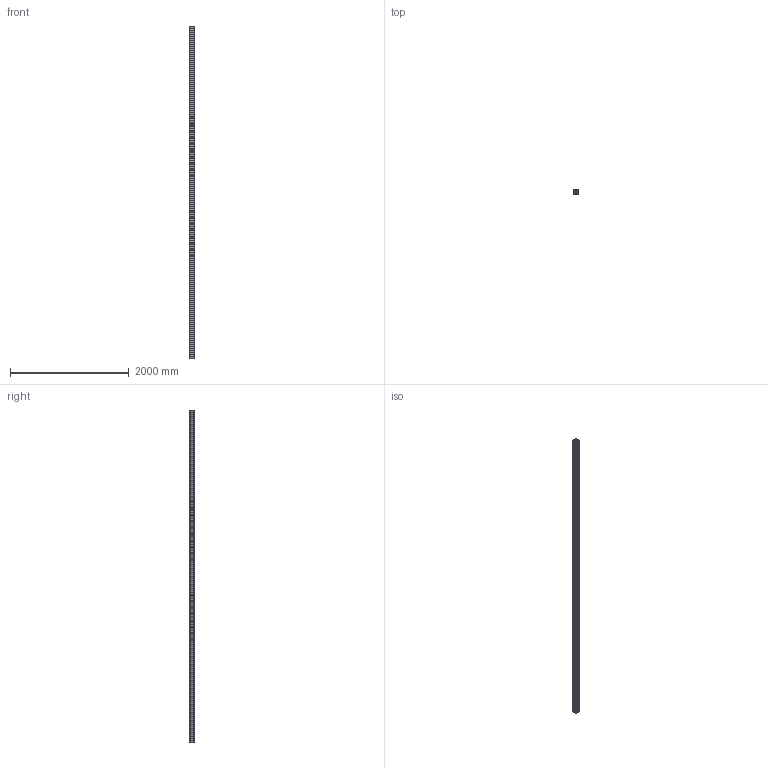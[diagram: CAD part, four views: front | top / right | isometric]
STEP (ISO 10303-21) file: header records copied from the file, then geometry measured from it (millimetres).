
FILE_DESCRIPTION (( 'STEP AP203' ), '1' );
FILE_NAME ('_-_MLF 4 5598 mm lang.step', '2005-09-01T12:47:33', ( ' ' ), ( ' ' ), 'SwSTEP 2.0', 'SolidWorks 2005187', '' );
FILE_SCHEMA (( 'CONFIG_CONTROL_DESIGN' ));
Length unit declared in the file: millimetre
Products named in the file (1): _-_MLF 4  5598 mm lang
Bounding box: 87.56 x 80 x 5598 mm (x, y, z)
Volume: 12899155.8 mm3; surface area: 6910827.4 mm2
Topology: 1 solids, 1 shells, 248 faces, 762 edges, 500 vertices
Faces by surface type: plane 174, cylinder 74
Entity records: 8575 total; most frequent: ORIENTED_EDGE 1524, CARTESIAN_POINT 1511, DIRECTION 1408, EDGE_CURVE 762, VECTOR 614, LINE 614, VERTEX_POINT 500, AXIS2_PLACEMENT_3D 397
